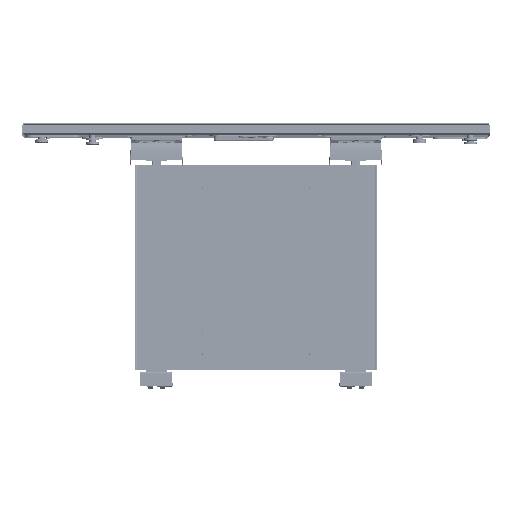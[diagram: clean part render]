
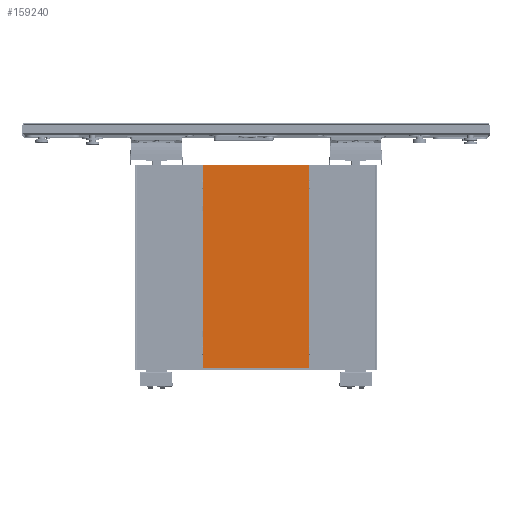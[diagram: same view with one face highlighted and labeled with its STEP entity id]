
A CAD part, top view. The second image highlights one B-rep face of the part: STEP entity #159240.
In plain terms, the highlighted planar face has unit normal (0, 0, 1).
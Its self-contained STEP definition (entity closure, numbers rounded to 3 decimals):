
#13024=PLANE('',#171874);
#15942=FACE_OUTER_BOUND('',#26530,.T.);
#26530=EDGE_LOOP('',(#109170,#109171,#109172,#109173));
#37800=LINE('',#245351,#47435);
#37801=LINE('',#245353,#47436);
#37802=LINE('',#245355,#47437);
#37803=LINE('',#245356,#47438);
#47435=VECTOR('',#192912,0.394);
#47436=VECTOR('',#192913,0.394);
#47437=VECTOR('',#192914,0.394);
#47438=VECTOR('',#192915,0.394);
#66708=VERTEX_POINT('',#245349);
#66709=VERTEX_POINT('',#245350);
#66710=VERTEX_POINT('',#245352);
#66711=VERTEX_POINT('',#245354);
#82340=EDGE_CURVE('',#66708,#66709,#37800,.T.);
#82341=EDGE_CURVE('',#66710,#66708,#37801,.T.);
#82342=EDGE_CURVE('',#66711,#66710,#37802,.T.);
#82343=EDGE_CURVE('',#66709,#66711,#37803,.T.);
#109170=ORIENTED_EDGE('',*,*,#82340,.T.);
#109171=ORIENTED_EDGE('',*,*,#82343,.T.);
#109172=ORIENTED_EDGE('',*,*,#82342,.T.);
#109173=ORIENTED_EDGE('',*,*,#82341,.T.);
#159240=ADVANCED_FACE('',(#15942),#13024,.T.);
#171874=AXIS2_PLACEMENT_3D('',#245437,#193008,#193009);
#192912=DIRECTION('',(0.,1.,0.));
#192913=DIRECTION('',(1.,0.,0.));
#192914=DIRECTION('',(0.,-1.,0.));
#192915=DIRECTION('',(-1.,0.,0.));
#193008=DIRECTION('center_axis',(0.,0.,1.));
#193009=DIRECTION('ref_axis',(1.,0.,0.));
#245349=CARTESIAN_POINT('',(6.141,-11.734,0.797));
#245350=CARTESIAN_POINT('',(6.141,11.734,0.797));
#245351=CARTESIAN_POINT('',(6.141,5.867,0.797));
#245352=CARTESIAN_POINT('',(-6.141,-11.734,0.797));
#245353=CARTESIAN_POINT('',(3.07,-11.734,0.797));
#245354=CARTESIAN_POINT('',(-6.141,11.734,0.797));
#245355=CARTESIAN_POINT('',(-6.141,-5.867,0.797));
#245356=CARTESIAN_POINT('',(-3.07,11.734,0.797));
#245437=CARTESIAN_POINT('Origin',(0.,0.,
0.797));
